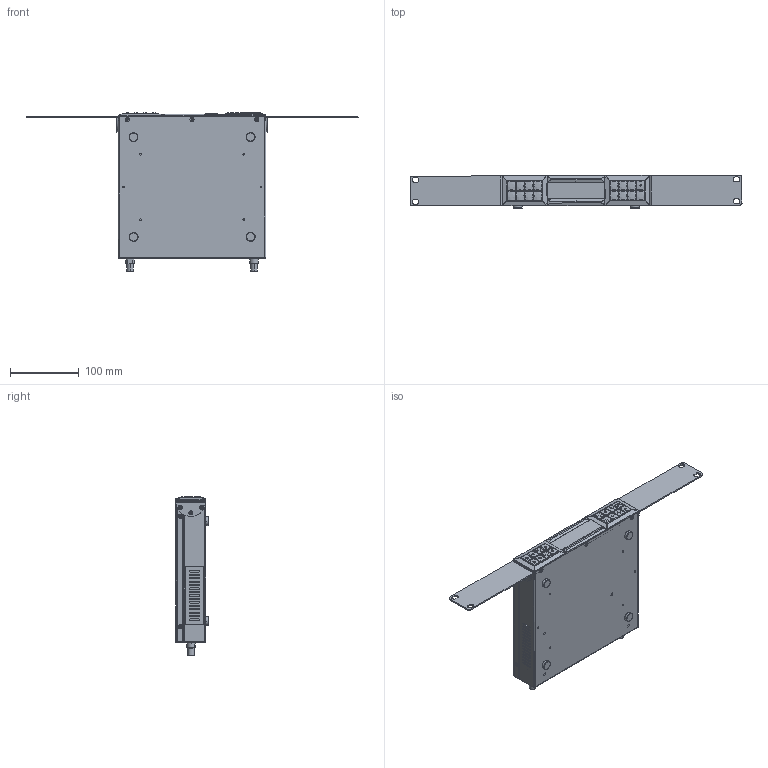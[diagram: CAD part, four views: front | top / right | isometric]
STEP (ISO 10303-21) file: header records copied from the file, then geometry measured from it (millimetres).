
FILE_DESCRIPTION(/* description */ (''),/* implementation_level */ '2;1');
FILE_NAME(/* name */ 'T-592U~2',/* time_stamp */ '2024-10-11T18:00:30+08:00',/* author */ (''),/* organization */ (''),/* preprocessor_version */ 'ST-DEVELOPER v16.5',/* originating_system */ '',/* authorisation */ '');
FILE_SCHEMA (('CONFIG_CONTROL_DESIGN'));
Products named in the file (1): Document
Bounding box: 481.53 x 47.66 x 229.87 mm (x, y, z)
Volume: 218878.1 mm3; surface area: 352615.7 mm2
Topology: 37 solids, 37 shells, 5136 faces, 14341 edges, 9427 vertices
Faces by surface type: plane 3759, bspline 849, cylinder 528
Entity records: 213214 total; most frequent: CARTESIAN_POINT 117462, ORIENTED_EDGE 28674, EDGE_CURVE 14337, B_SPLINE_CURVE_WITH_KNOTS 12563, VERTEX_POINT 9427, EDGE_LOOP 5772, ADVANCED_FACE 5136, FACE_OUTER_BOUND 5136
